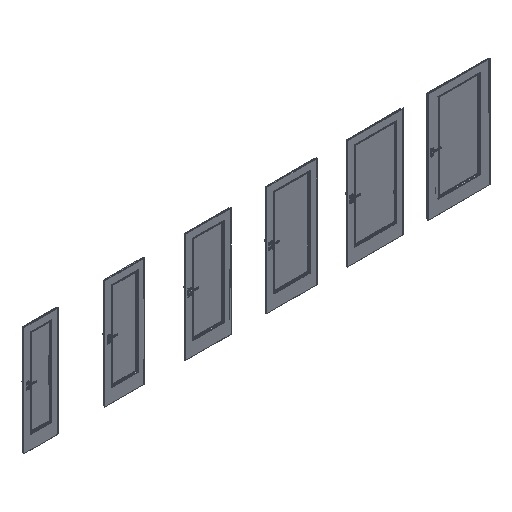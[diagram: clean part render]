
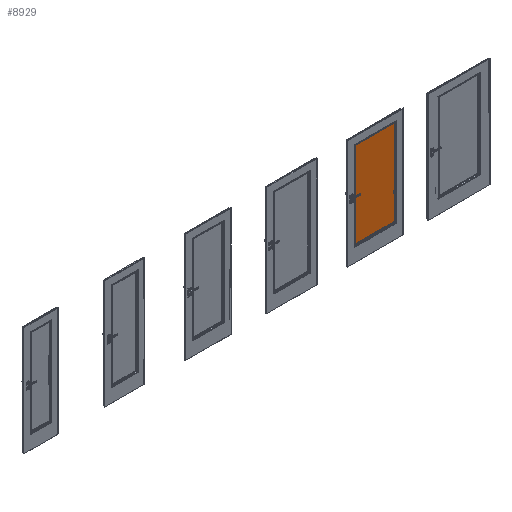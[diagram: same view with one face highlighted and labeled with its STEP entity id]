
A CAD part, isometric view. The second image highlights one B-rep face of the part: STEP entity #8929.
In plain terms, the highlighted planar face has unit normal (0, -1, 0).
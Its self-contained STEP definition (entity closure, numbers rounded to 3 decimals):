
#8929=ADVANCED_FACE('',(#15303),#12175,.T.);
#12175=PLANE('',#74005);
#15303=FACE_OUTER_BOUND('',#19360,.T.);
#19360=EDGE_LOOP('',(#30906,#30907,#30908,#30909));
#30906=ORIENTED_EDGE('',*,*,#52965,.T.);
#30907=ORIENTED_EDGE('',*,*,#52969,.T.);
#30908=ORIENTED_EDGE('',*,*,#52972,.T.);
#30909=ORIENTED_EDGE('',*,*,#52974,.T.);
#44748=VERTEX_POINT('',#112854);
#44749=VERTEX_POINT('',#112856);
#44751=VERTEX_POINT('',#112862);
#44753=VERTEX_POINT('',#112868);
#52965=EDGE_CURVE('',#44749,#44748,#61533,.T.);
#52969=EDGE_CURVE('',#44748,#44751,#61537,.T.);
#52972=EDGE_CURVE('',#44751,#44753,#61540,.T.);
#52974=EDGE_CURVE('',#44753,#44749,#61542,.T.);
#61533=LINE('',#112855,#68393);
#61537=LINE('',#112863,#68397);
#61540=LINE('',#112869,#68400);
#61542=LINE('',#112872,#68402);
#68393=VECTOR('',#82797,1.);
#68397=VECTOR('',#82803,1.);
#68400=VECTOR('',#82808,1.);
#68402=VECTOR('',#82812,1.);
#74005=AXIS2_PLACEMENT_3D('',#112874,#82815,#82816);
#82797=DIRECTION('',(0.,0.,-1.));
#82803=DIRECTION('',(1.,0.,0.));
#82808=DIRECTION('',(0.,0.,1.));
#82812=DIRECTION('',(-1.,0.,0.));
#82815=DIRECTION('',(0.,-1.,0.));
#82816=DIRECTION('',(0.,0.,-1.));
#112854=CARTESIAN_POINT('',(5814.,-22.25,262.));
#112855=CARTESIAN_POINT('',(5814.,-22.25,1894.));
#112856=CARTESIAN_POINT('',(5814.,-22.25,1894.));
#112862=CARTESIAN_POINT('',(6586.,-22.25,262.));
#112863=CARTESIAN_POINT('',(5814.,-22.25,262.));
#112868=CARTESIAN_POINT('',(6586.,-22.25,1894.));
#112869=CARTESIAN_POINT('',(6586.,-22.25,262.));
#112872=CARTESIAN_POINT('',(6186.,-22.25,1894.));
#112874=CARTESIAN_POINT('',(6000.,-22.25,1078.));
